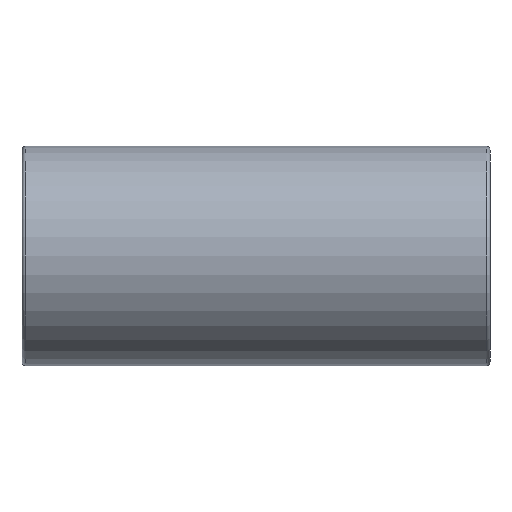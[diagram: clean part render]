
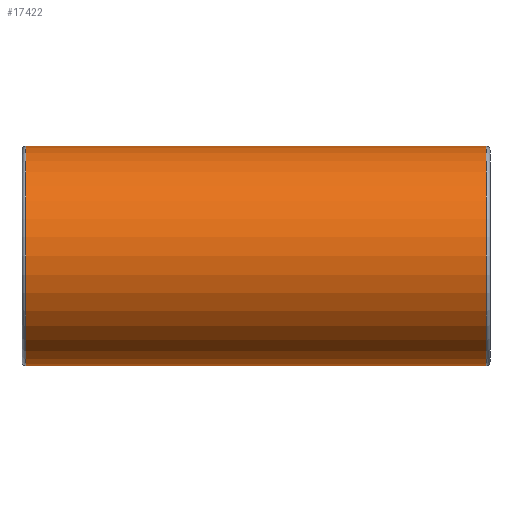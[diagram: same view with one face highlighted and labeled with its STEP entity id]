
A CAD part, left-side view. The second image highlights one B-rep face of the part: STEP entity #17422.
In plain terms, the highlighted cylindrical face has radius 8.9 mm (diameter 17.8 mm), a partial arc.
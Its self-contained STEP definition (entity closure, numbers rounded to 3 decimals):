
#599 = ORIENTED_EDGE ( 'NONE', *, *, #11913, .F. ) ;
#1590 = ORIENTED_EDGE ( 'NONE', *, *, #8744, .T. ) ;
#2909 = DIRECTION ( 'NONE',  ( 0., 1., 0. ) ) ;
#4307 = LINE ( 'NONE', #4544, #18510 ) ;
#4544 = CARTESIAN_POINT ( 'NONE',  ( -21.758, 26.808, -8.9 ) ) ;
#4552 = CARTESIAN_POINT ( 'NONE',  ( -21.758, 26.508, 0. ) ) ;
#5069 = DIRECTION ( 'NONE',  ( 0., -1., 0. ) ) ;
#5232 = AXIS2_PLACEMENT_3D ( 'NONE', #11941, #2909, #10172 ) ;
#5977 = AXIS2_PLACEMENT_3D ( 'NONE', #14679, #5069, #19602 ) ;
#6001 = LINE ( 'NONE', #9335, #22051 ) ;
#6002 = ORIENTED_EDGE ( 'NONE', *, *, #14371, .T. ) ;
#6321 = CARTESIAN_POINT ( 'NONE',  ( -21.758, -10.892, 8.9 ) ) ;
#6325 = DIRECTION ( 'NONE',  ( 0., -1., 0. ) ) ;
#6353 = DIRECTION ( 'NONE',  ( 0., -1., 0. ) ) ;
#7428 = CYLINDRICAL_SURFACE ( 'NONE', #5977, 8.9 ) ;
#7833 = AXIS2_PLACEMENT_3D ( 'NONE', #4552, #15482, #10017 ) ;
#8523 = ORIENTED_EDGE ( 'NONE', *, *, #17201, .T. ) ;
#8744 = EDGE_CURVE ( 'NONE', #20586, #22017, #16590, .T. ) ;
#9335 = CARTESIAN_POINT ( 'NONE',  ( -21.758, 26.808, 8.9 ) ) ;
#10017 = DIRECTION ( 'NONE',  ( 0., 0., 1. ) ) ;
#10172 = DIRECTION ( 'NONE',  ( 0., 0., 1. ) ) ;
#10946 = CARTESIAN_POINT ( 'NONE',  ( -21.758, 26.508, 8.9 ) ) ;
#10956 = VERTEX_POINT ( 'NONE', #14486 ) ;
#11913 = EDGE_CURVE ( 'NONE', #20586, #18455, #6001, .T. ) ;
#11941 = CARTESIAN_POINT ( 'NONE',  ( -21.758, -10.892, 0. ) ) ;
#14330 = CIRCLE ( 'NONE', #5232, 8.9 ) ;
#14371 = EDGE_CURVE ( 'NONE', #22017, #10956, #4307, .T. ) ;
#14486 = CARTESIAN_POINT ( 'NONE',  ( -21.758, -10.892, -8.9 ) ) ;
#14679 = CARTESIAN_POINT ( 'NONE',  ( -21.758, 26.808, 0. ) ) ;
#15482 = DIRECTION ( 'NONE',  ( 0., -1., 0. ) ) ;
#16590 = CIRCLE ( 'NONE', #7833, 8.9 ) ;
#16784 = EDGE_LOOP ( 'NONE', ( #599, #1590, #6002, #8523 ) ) ;
#17201 = EDGE_CURVE ( 'NONE', #10956, #18455, #14330, .T. ) ;
#17422 = ADVANCED_FACE ( 'NONE', ( #23515 ), #7428, .T. ) ;
#18455 = VERTEX_POINT ( 'NONE', #6321 ) ;
#18510 = VECTOR ( 'NONE', #6325, 1000. ) ;
#19602 = DIRECTION ( 'NONE',  ( 0., 0., -1. ) ) ;
#20586 = VERTEX_POINT ( 'NONE', #10946 ) ;
#22017 = VERTEX_POINT ( 'NONE', #23518 ) ;
#22051 = VECTOR ( 'NONE', #6353, 1000. ) ;
#23515 = FACE_OUTER_BOUND ( 'NONE', #16784, .T. ) ;
#23518 = CARTESIAN_POINT ( 'NONE',  ( -21.758, 26.508, -8.9 ) ) ;
